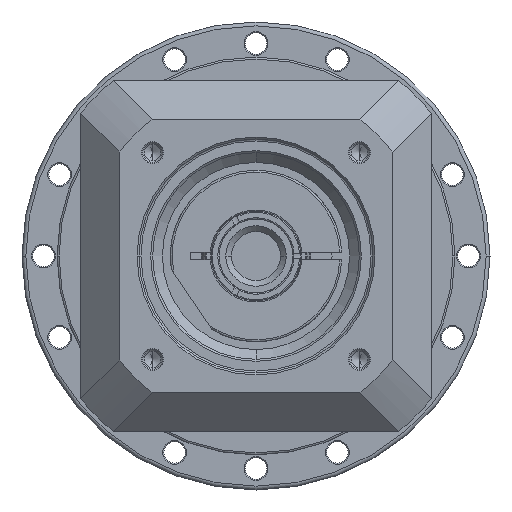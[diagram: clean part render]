
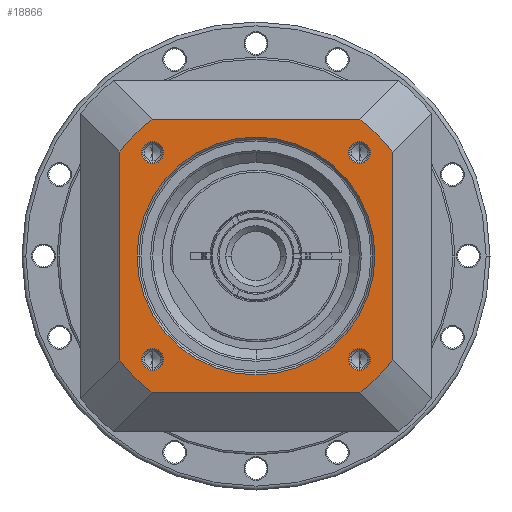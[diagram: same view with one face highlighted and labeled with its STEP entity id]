
A CAD part, left-side view. The second image highlights one B-rep face of the part: STEP entity #18866.
In plain terms, the highlighted planar face has unit normal (-1, 0, 0) as drawn and (0, 0, 1) by its records, which use the part's own axes.
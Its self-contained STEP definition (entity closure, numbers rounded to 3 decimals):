
#17606=CARTESIAN_POINT('',(0.,0.,
35.));
#17607=DIRECTION('',(0.,0.,-1.));
#17608=DIRECTION('',(0.,-1.,0.));
#17609=AXIS2_PLACEMENT_3D('',#17606,#17607,#17608);
#17611=CARTESIAN_POINT('',(0.,0.,
35.));
#17612=DIRECTION('',(0.,0.,-1.));
#17613=DIRECTION('',(0.,1.,0.));
#17614=AXIS2_PLACEMENT_3D('',#17611,#17612,#17613);
#17616=DIRECTION('',(1.,0.,0.));
#17617=VECTOR('',#17616,53.329);
#17618=CARTESIAN_POINT('',(-26.665,35.,35.));
#17619=LINE('',#17618,#17617);
#17620=CARTESIAN_POINT('',(0.,0.,35.));
#17621=DIRECTION('',(0.,0.,1.));
#17622=DIRECTION('',(0.795,0.606,0.));
#17623=AXIS2_PLACEMENT_3D('',#17620,#17621,#17622);
#17625=DIRECTION('',(0.,1.,0.));
#17626=VECTOR('',#17625,53.329);
#17627=CARTESIAN_POINT('',(35.,-26.665,35.));
#17628=LINE('',#17627,#17626);
#17629=DIRECTION('',(1.,0.,0.));
#17630=VECTOR('',#17629,53.329);
#17631=CARTESIAN_POINT('',(-26.665,-35.,35.));
#17632=LINE('',#17631,#17630);
#17633=CARTESIAN_POINT('',(0.,0.,35.));
#17634=DIRECTION('',(0.,0.,1.));
#17635=DIRECTION('',(-0.795,-0.606,0.));
#17636=AXIS2_PLACEMENT_3D('',#17633,#17634,#17635);
#17638=DIRECTION('',(0.,1.,0.));
#17639=VECTOR('',#17638,53.329);
#17640=CARTESIAN_POINT('',(-35.,-26.665,35.));
#17641=LINE('',#17640,#17639);
#17656=CARTESIAN_POINT('',(0.,0.,35.));
#17657=DIRECTION('',(0.,0.,1.));
#17658=DIRECTION('',(-0.606,0.795,0.));
#17659=AXIS2_PLACEMENT_3D('',#17656,#17657,#17658);
#17666=CARTESIAN_POINT('',(0.,0.,35.));
#17667=DIRECTION('',(0.,0.,1.));
#17668=DIRECTION('',(0.606,-0.795,0.));
#17669=AXIS2_PLACEMENT_3D('',#17666,#17667,#17668);
#17683=CARTESIAN_POINT('',(-26.665,35.,35.));
#17775=CARTESIAN_POINT('',(35.,-26.665,35.));
#17803=CARTESIAN_POINT('',(26.665,-35.,35.));
#17843=CARTESIAN_POINT('',(-35.,26.665,35.));
#17852=CARTESIAN_POINT('',(-26.517,26.517,35.));
#17853=DIRECTION('',(0.,0.,1.));
#17854=DIRECTION('',(-1.,0.,0.));
#17855=AXIS2_PLACEMENT_3D('',#17852,#17853,#17854);
#17870=CARTESIAN_POINT('',(-26.517,26.517,35.));
#17871=DIRECTION('',(0.,0.,1.));
#17872=DIRECTION('',(1.,0.,0.));
#17873=AXIS2_PLACEMENT_3D('',#17870,#17871,#17872);
#17906=CARTESIAN_POINT('',(26.517,26.517,35.));
#17907=DIRECTION('',(0.,0.,1.));
#17908=DIRECTION('',(-1.,0.,0.));
#17909=AXIS2_PLACEMENT_3D('',#17906,#17907,#17908);
#17924=CARTESIAN_POINT('',(26.517,26.517,35.));
#17925=DIRECTION('',(0.,0.,1.));
#17926=DIRECTION('',(1.,0.,0.));
#17927=AXIS2_PLACEMENT_3D('',#17924,#17925,#17926);
#17960=CARTESIAN_POINT('',(26.517,-26.517,35.));
#17961=DIRECTION('',(0.,0.,1.));
#17962=DIRECTION('',(-1.,0.,0.));
#17963=AXIS2_PLACEMENT_3D('',#17960,#17961,#17962);
#17978=CARTESIAN_POINT('',(26.517,-26.517,35.));
#17979=DIRECTION('',(0.,0.,1.));
#17980=DIRECTION('',(1.,0.,0.));
#17981=AXIS2_PLACEMENT_3D('',#17978,#17979,#17980);
#18014=CARTESIAN_POINT('',(-26.517,-26.517,35.));
#18015=DIRECTION('',(0.,0.,1.));
#18016=DIRECTION('',(-1.,0.,0.));
#18017=AXIS2_PLACEMENT_3D('',#18014,#18015,#18016);
#18032=CARTESIAN_POINT('',(-26.517,-26.517,35.));
#18033=DIRECTION('',(0.,0.,1.));
#18034=DIRECTION('',(1.,0.,0.));
#18035=AXIS2_PLACEMENT_3D('',#18032,#18033,#18034);
#18197=CARTESIAN_POINT('',(-29.317,26.517,35.));
#18198=CARTESIAN_POINT('',(-23.717,26.517,35.));
#18199=VERTEX_POINT('',#18197);
#18200=VERTEX_POINT('',#18198);
#18223=CARTESIAN_POINT('',(-35.,-26.665,35.));
#18224=CARTESIAN_POINT('',(-26.665,-35.,35.));
#18225=VERTEX_POINT('',#18223);
#18226=VERTEX_POINT('',#18224);
#18227=CARTESIAN_POINT('',(35.,26.665,35.));
#18228=CARTESIAN_POINT('',(26.665,35.,35.));
#18229=VERTEX_POINT('',#18227);
#18230=VERTEX_POINT('',#18228);
#18239=VERTEX_POINT('',#17683);
#18242=VERTEX_POINT('',#17775);
#18243=VERTEX_POINT('',#17803);
#18246=VERTEX_POINT('',#17843);
#18255=CARTESIAN_POINT('',(29.317,26.517,35.));
#18256=CARTESIAN_POINT('',(23.717,26.517,35.));
#18257=VERTEX_POINT('',#18255);
#18258=VERTEX_POINT('',#18256);
#18263=CARTESIAN_POINT('',(29.317,-26.517,35.));
#18264=CARTESIAN_POINT('',(23.717,-26.517,35.));
#18265=VERTEX_POINT('',#18263);
#18266=VERTEX_POINT('',#18264);
#18271=CARTESIAN_POINT('',(-23.717,-26.517,35.));
#18272=CARTESIAN_POINT('',(-29.317,-26.517,35.));
#18273=VERTEX_POINT('',#18271);
#18274=VERTEX_POINT('',#18272);
#18279=CARTESIAN_POINT('',(0.,-30.5,35.));
#18280=CARTESIAN_POINT('',(0.,30.5,35.));
#18281=VERTEX_POINT('',#18279);
#18282=VERTEX_POINT('',#18280);
#18814=CARTESIAN_POINT('',(0.,0.,35.));
#18815=DIRECTION('',(0.,0.,1.));
#18816=DIRECTION('',(1.,0.,0.));
#18817=AXIS2_PLACEMENT_3D('',#18814,#18815,#18816);
#18818=PLANE('',#18817);
#18820=ORIENTED_EDGE('',*,*,#18819,.F.);
#18822=ORIENTED_EDGE('',*,*,#18821,.T.);
#18824=ORIENTED_EDGE('',*,*,#18823,.F.);
#18826=ORIENTED_EDGE('',*,*,#18825,.F.);
#18828=ORIENTED_EDGE('',*,*,#18827,.F.);
#18830=ORIENTED_EDGE('',*,*,#18829,.F.);
#18832=ORIENTED_EDGE('',*,*,#18831,.F.);
#18834=ORIENTED_EDGE('',*,*,#18833,.T.);
#18835=EDGE_LOOP('',(#18820,#18822,#18824,#18826,#18828,#18830,#18832,#18834));
#18836=FACE_OUTER_BOUND('',#18835,.F.);
#18837=ORIENTED_EDGE('',*,*,#18804,.F.);
#18839=ORIENTED_EDGE('',*,*,#18838,.F.);
#18840=EDGE_LOOP('',(#18837,#18839));
#18841=FACE_BOUND('',#18840,.F.);
#18843=ORIENTED_EDGE('',*,*,#18842,.T.);
#18845=ORIENTED_EDGE('',*,*,#18844,.T.);
#18846=EDGE_LOOP('',(#18843,#18845));
#18847=FACE_BOUND('',#18846,.F.);
#18849=ORIENTED_EDGE('',*,*,#18848,.T.);
#18851=ORIENTED_EDGE('',*,*,#18850,.T.);
#18852=EDGE_LOOP('',(#18849,#18851));
#18853=FACE_BOUND('',#18852,.F.);
#18855=ORIENTED_EDGE('',*,*,#18854,.T.);
#18857=ORIENTED_EDGE('',*,*,#18856,.T.);
#18858=EDGE_LOOP('',(#18855,#18857));
#18859=FACE_BOUND('',#18858,.F.);
#18861=ORIENTED_EDGE('',*,*,#18860,.T.);
#18863=ORIENTED_EDGE('',*,*,#18862,.T.);
#18864=EDGE_LOOP('',(#18861,#18863));
#18865=FACE_BOUND('',#18864,.F.);
#18866=ADVANCED_FACE('',(#18836,#18841,#18847,#18853,#18859,#18865),#18818,.T.);
#17610=CIRCLE('',#17609,30.5);
#17615=CIRCLE('',#17614,30.5);
#17624=CIRCLE('',#17623,44.);
#17637=CIRCLE('',#17636,44.);
#17660=CIRCLE('',#17659,44.);
#17670=CIRCLE('',#17669,44.);
#17856=CIRCLE('',#17855,2.8);
#17874=CIRCLE('',#17873,2.8);
#17910=CIRCLE('',#17909,2.8);
#17928=CIRCLE('',#17927,2.8);
#17964=CIRCLE('',#17963,2.8);
#17982=CIRCLE('',#17981,2.8);
#18018=CIRCLE('',#18017,2.8);
#18036=CIRCLE('',#18035,2.8);
#18804=EDGE_CURVE('',#18281,#18282,#17610,.T.);
#18819=EDGE_CURVE('',#18239,#18246,#17660,.T.);
#18821=EDGE_CURVE('',#18239,#18230,#17619,.T.);
#18823=EDGE_CURVE('',#18229,#18230,#17624,.T.);
#18825=EDGE_CURVE('',#18242,#18229,#17628,.T.);
#18827=EDGE_CURVE('',#18243,#18242,#17670,.T.);
#18829=EDGE_CURVE('',#18226,#18243,#17632,.T.);
#18831=EDGE_CURVE('',#18225,#18226,#17637,.T.);
#18833=EDGE_CURVE('',#18225,#18246,#17641,.T.);
#18838=EDGE_CURVE('',#18282,#18281,#17615,.T.);
#18842=EDGE_CURVE('',#18199,#18200,#17856,.T.);
#18844=EDGE_CURVE('',#18200,#18199,#17874,.T.);
#18848=EDGE_CURVE('',#18258,#18257,#17910,.T.);
#18850=EDGE_CURVE('',#18257,#18258,#17928,.T.);
#18854=EDGE_CURVE('',#18266,#18265,#17964,.T.);
#18856=EDGE_CURVE('',#18265,#18266,#17982,.T.);
#18860=EDGE_CURVE('',#18274,#18273,#18018,.T.);
#18862=EDGE_CURVE('',#18273,#18274,#18036,.T.);
